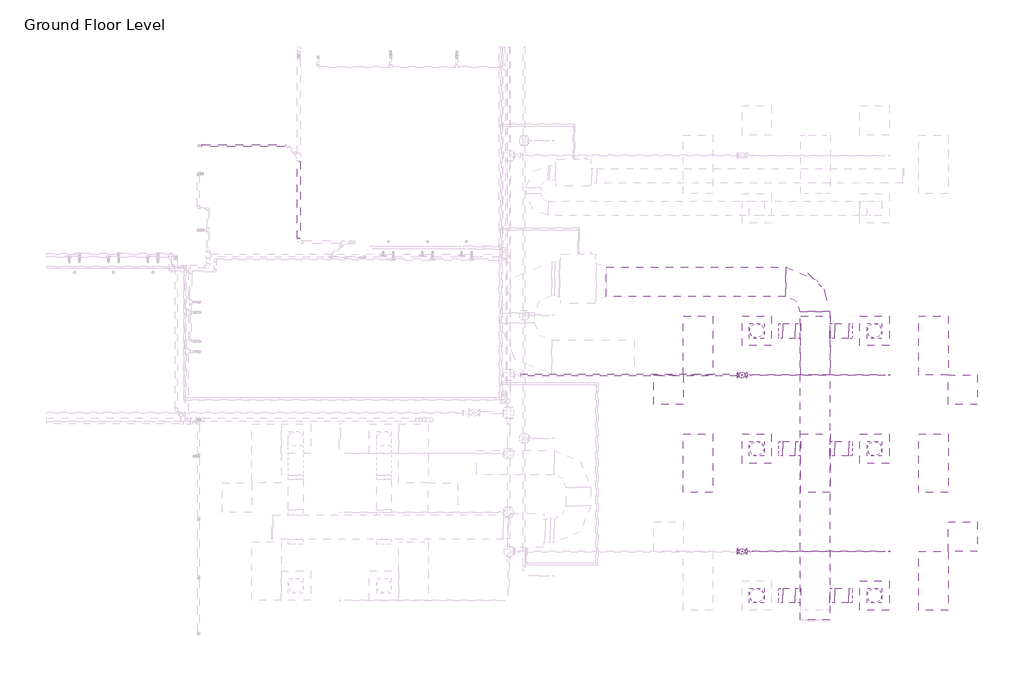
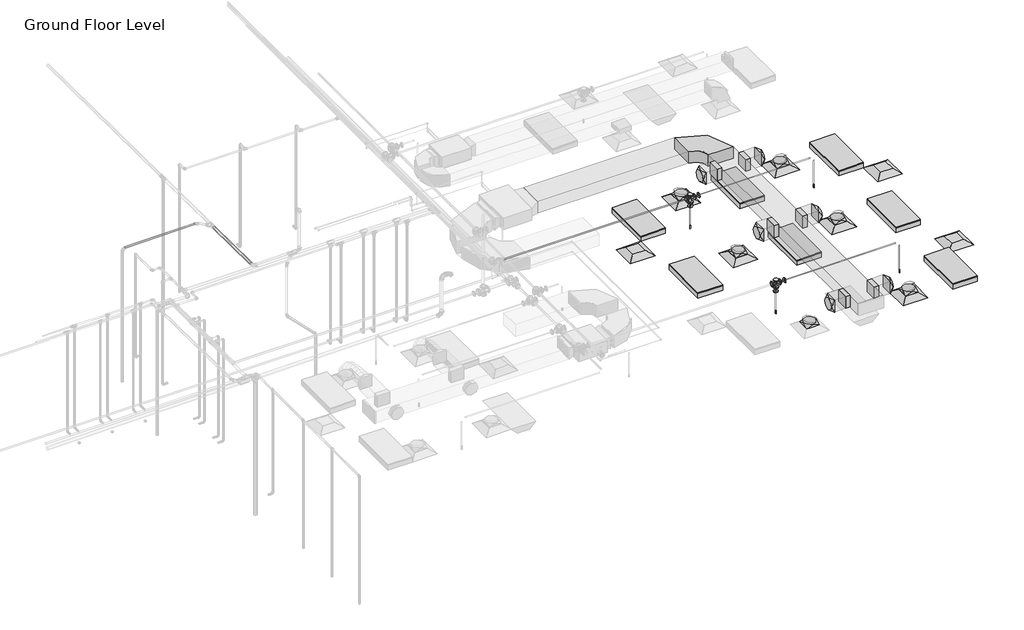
# One storey, part 18 of 66: 19 duct fittings, 14 duct segments, 9 pipe segments, 8 air terminals, 7 light fixtures, 6 pipe fittings, 4 fire suppression terminals.
"""IFC4 building model written with IfcOpenShell, lengths in millimetres."""

from ifc_helpers import new_model, si_unit, point, frame, frame_2d, origin, place, context, project, spatial, polyline, circle_curve, ellipse_curve, trimmed, segment, composite_curve, outline, extrude, transform, mapped, element, save
from ifc_brep_helpers import plane_surface, cylinder_surface, advanced_brep
from components import m_return_diffuser_600_x_600_face_300_x_300_connection_ff221211, m_rectangular_elbow_radius_1_w_c6ed0251, m_rectangular_takeoff_standard_cb0ccb98, m_rectangular_takeoff_standard_2be5eba1, m_rectangular_to_round_transition_angle_45_degree_641efff0, m_sprinkler_dry_pendent_hosted_15_mm_dry_pendent_9bda8e11, m_troffer_light_parabolic_rectangular1_0600x1200mm_4_lamp_86473d4a, m_reducer_flanged_cs_class_150_standard_ccf252ad, m_tee_round_base_flanged_cs_class_150_standard_7e5987a1

model = new_model("IFC4")

# Units and contexts
model_context = context("Model", 3, world=origin())
ifc_project = project(units=[si_unit("LENGTHUNIT", "METRE", prefix="MILLI")], contexts=[model_context])

# Site, building, storey
site = spatial("IfcSite", under=ifc_project)
building = spatial("IfcBuilding", under=site)
storey = spatial("IfcBuildingStorey", under=building, Name="Ground Floor Level", Elevation=900.0)

# Air terminals
placement = place(None, origin())
m_return_diffuser_600_x_600_face_300_x_300_connection_shape = m_return_diffuser_600_x_600_face_300_x_300_connection_ff221211(model_context)
element("IfcAirTerminal", 1, ObjectType="M_Return Diffuser : 600 x 600 Face 300 x 300 Connection", at=placement, inside=storey, context=model_context, shape_type="MappedRepresentation", body=[
    mapped(m_return_diffuser_600_x_600_face_300_x_300_connection_shape, transform((8943.0482736, -35564.7846466, 3650.0), x_axis=(1.0, 0.0, 0.0), y_axis=(0.0, 1.0, 0.0), z_axis=(0.0, 0.0, 1.0))),
])
element("IfcAirTerminal", 2, ObjectType="M_Return Diffuser : 600 x 600 Face 300 x 300 Connection", at=placement, inside=storey, context=model_context, shape_type="MappedRepresentation", body=[
    mapped(m_return_diffuser_600_x_600_face_300_x_300_connection_shape, transform((14943.0482736, -38564.7846466, 3650.0), x_axis=(1.0, 0.0, 0.0), y_axis=(0.0, 1.0, 0.0), z_axis=(0.0, 0.0, 1.0))),
])
element("IfcAirTerminal", 3, ObjectType="M_Return Diffuser : 600 x 600 Face 300 x 300 Connection", at=placement, inside=storey, context=model_context, shape_type="MappedRepresentation", body=[
    mapped(m_return_diffuser_600_x_600_face_300_x_300_connection_shape, transform((14943.0482736, -35564.7846466, 3650.0), x_axis=(1.0, 0.0, 0.0), y_axis=(0.0, 1.0, 0.0), z_axis=(0.0, 0.0, 1.0))),
])
element("IfcAirTerminal", 4, ObjectType="M_Supply Diffuser : 600 x 600 Face 300 x 300 Connection", at=placement, inside=storey, context=model_context, shape_type="MappedRepresentation", body=[
    mapped(m_return_diffuser_600_x_600_face_300_x_300_connection_shape, transform((13142.7672395, -39764.7846466, 3650.0), x_axis=(1.0, 0.0, 0.0), y_axis=(0.0, 1.0, 0.0), z_axis=(0.0, 0.0, 1.0))),
])
element("IfcAirTerminal", 5, ObjectType="M_Supply Diffuser : 600 x 600 Face 300 x 300 Connection", at=placement, inside=storey, context=model_context, shape_type="MappedRepresentation", body=[
    mapped(m_return_diffuser_600_x_600_face_300_x_300_connection_shape, transform((10742.7672395, -36764.7846466, 3650.0), x_axis=(1.0, 0.0, 0.0), y_axis=(0.0, 1.0, 0.0), z_axis=(0.0, 0.0, 1.0))),
])
element("IfcAirTerminal", 6, ObjectType="M_Supply Diffuser : 600 x 600 Face 300 x 300 Connection", at=placement, inside=storey, context=model_context, shape_type="MappedRepresentation", body=[
    mapped(m_return_diffuser_600_x_600_face_300_x_300_connection_shape, transform((13142.7672395, -36764.7846466, 3650.0), x_axis=(1.0, 0.0, 0.0), y_axis=(0.0, 1.0, 0.0), z_axis=(0.0, 0.0, 1.0))),
])
element("IfcAirTerminal", 7, ObjectType="M_Supply Diffuser : 600 x 600 Face 300 x 300 Connection", at=placement, inside=storey, context=model_context, shape_type="MappedRepresentation", body=[
    mapped(m_return_diffuser_600_x_600_face_300_x_300_connection_shape, transform((10742.7672395, -34364.7846466, 3650.0), x_axis=(1.0, 0.0, 0.0), y_axis=(0.0, 1.0, 0.0), z_axis=(0.0, 0.0, 1.0))),
])
element("IfcAirTerminal", 8, ObjectType="M_Supply Diffuser : 600 x 600 Face 300 x 300 Connection", at=placement, inside=storey, context=model_context, shape_type="MappedRepresentation", body=[
    mapped(m_return_diffuser_600_x_600_face_300_x_300_connection_shape, transform((13142.7672395, -34364.7846466, 3650.0), x_axis=(1.0, 0.0, 0.0), y_axis=(0.0, 1.0, 0.0), z_axis=(0.0, 0.0, 1.0))),
])

# Duct fittings
m_rectangular_elbow_radius_1_w_shape = m_rectangular_elbow_radius_1_w_c6ed0251(model_context)
element("IfcDuctFitting", 9, ObjectType="M_Rectangular Elbow - Radius : 1 W", at=placement, inside=storey, context=model_context, shape_type="MappedRepresentation", body=[
    mapped(m_rectangular_elbow_radius_1_w_shape, transform((11933.8644074, -33364.7726336, 4099.9875), x_axis=(0.0, 1.0, 0.0), y_axis=(-0.9999999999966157, 0.0, 2.601673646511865e-06), z_axis=(2.601673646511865e-06, 0.0, 0.9999999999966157))),
])
m_rectangular_takeoff_standard_shape = m_rectangular_takeoff_standard_cb0ccb98(model_context)
element("IfcDuctFitting", 10, ObjectType="M_Rectangular Takeoff : Standard", at=placement, inside=storey, context=model_context, shape_type="MappedRepresentation", body=[
    mapped(m_rectangular_takeoff_standard_shape, transform((12233.8644074, -34364.7846466, 4099.9875), x_axis=(1.0, 0.0, 0.0), y_axis=(0.0, -1.0, 0.0), z_axis=(0.0, 0.0, -1.0))),
])
element("IfcDuctFitting", 11, ObjectType="M_Rectangular Takeoff : Standard", at=placement, inside=storey, context=model_context, shape_type="MappedRepresentation", body=[
    mapped(m_rectangular_takeoff_standard_shape, transform((12233.8644074, -36764.7846466, 4099.9875), x_axis=(1.0, 0.0, 0.0), y_axis=(0.0, -1.0, 0.0), z_axis=(0.0, 0.0, -1.0))),
])
element("IfcDuctFitting", 12, ObjectType="M_Rectangular Takeoff : Standard", at=placement, inside=storey, context=model_context, shape_type="MappedRepresentation", body=[
    mapped(m_rectangular_takeoff_standard_shape, transform((12233.8644074, -39764.7846466, 4099.9875), x_axis=(1.0, 0.0, 0.0), y_axis=(0.0, -1.0, 0.0), z_axis=(0.0, 0.0, -1.0))),
])
m_rectangular_takeoff_standard_2_shape = m_rectangular_takeoff_standard_2be5eba1(model_context)
element("IfcDuctFitting", 13, ObjectType="M_Rectangular Takeoff : Standard", at=placement, inside=storey, context=model_context, shape_type="MappedRepresentation", body=[
    mapped(m_rectangular_takeoff_standard_2_shape, transform((11633.8644074, -34364.7846466, 4099.9875), x_axis=(-1.0, 0.0, 0.0), y_axis=(0.0, 1.0, 0.0), z_axis=(0.0, 0.0, -1.0))),
])
element("IfcDuctFitting", 14, ObjectType="M_Rectangular Takeoff : Standard", at=placement, inside=storey, context=model_context, shape_type="MappedRepresentation", body=[
    mapped(m_rectangular_takeoff_standard_2_shape, transform((11633.8644074, -36764.7846466, 4099.9875), x_axis=(-1.0, 0.0, 0.0), y_axis=(0.0, 1.0, 0.0), z_axis=(0.0, 0.0, -1.0))),
])
element("IfcDuctFitting", 15, ObjectType="M_Rectangular Takeoff : Standard", at=placement, inside=storey, context=model_context, shape_type="MappedRepresentation", body=[
    mapped(m_rectangular_takeoff_standard_2_shape, transform((11633.8644074, -39764.7846466, 4099.9875), x_axis=(-1.0, 0.0, 0.0), y_axis=(0.0, 1.0, 0.0), z_axis=(0.0, 0.0, -1.0))),
])
m_rectangular_to_round_transition_angle_45_degree_shape = m_rectangular_to_round_transition_angle_45_degree_641efff0(model_context)
element("IfcDuctFitting", 16, ObjectType="M_Rectangular to Round Transition - Angle : 45 Degree", at=placement, inside=storey, context=model_context, shape_type="MappedRepresentation", body=[
    mapped(m_rectangular_to_round_transition_angle_45_degree_shape, transform((10742.7672395, -34364.7846466, 3751.6), x_axis=(0.0, 0.0, 1.0), y_axis=(-1.0, 0.0, 0.0), z_axis=(0.0, -1.0, 0.0))),
])
element("IfcDuctFitting", 17, ObjectType="M_Rectangular to Round Transition - Angle : 45 Degree", at=placement, inside=storey, context=model_context, shape_type="MappedRepresentation", body=[
    mapped(m_rectangular_to_round_transition_angle_45_degree_shape, transform((11270.1156708, -34364.7846466, 4099.9875), x_axis=(-1.0, 0.0, 0.0), y_axis=(0.0, -1.0, 0.0), z_axis=(0.0, 0.0, 1.0))),
])
element("IfcDuctFitting", 18, ObjectType="M_Rectangular to Round Transition - Angle : 45 Degree", at=placement, inside=storey, context=model_context, shape_type="MappedRepresentation", body=[
    mapped(m_rectangular_to_round_transition_angle_45_degree_shape, transform((13142.7672395, -34364.7846466, 3751.6), x_axis=(0.0, 0.0, 1.0), y_axis=(-1.0, 0.0, 0.0), z_axis=(0.0, -1.0, 0.0))),
])
element("IfcDuctFitting", 19, ObjectType="M_Rectangular to Round Transition - Angle : 45 Degree", at=placement, inside=storey, context=model_context, shape_type="MappedRepresentation", body=[
    mapped(m_rectangular_to_round_transition_angle_45_degree_shape, transform((12615.4188082, -34364.7846466, 4099.9875), x_axis=(1.0, 0.0, 0.0), y_axis=(0.0, 1.0, 0.0), z_axis=(0.0, 0.0, 1.0))),
])
element("IfcDuctFitting", 20, ObjectType="M_Rectangular to Round Transition - Angle : 45 Degree", at=placement, inside=storey, context=model_context, shape_type="MappedRepresentation", body=[
    mapped(m_rectangular_to_round_transition_angle_45_degree_shape, transform((13142.7672395, -36764.7846466, 3751.6), x_axis=(0.0, 0.0, 1.0), y_axis=(-1.0, 0.0, 0.0), z_axis=(0.0, -1.0, 0.0))),
])
element("IfcDuctFitting", 21, ObjectType="M_Rectangular to Round Transition - Angle : 45 Degree", at=placement, inside=storey, context=model_context, shape_type="MappedRepresentation", body=[
    mapped(m_rectangular_to_round_transition_angle_45_degree_shape, transform((12615.4188082, -36764.7846466, 4099.9875), x_axis=(1.0, 0.0, 0.0), y_axis=(0.0, 1.0, 0.0), z_axis=(0.0, 0.0, 1.0))),
])
element("IfcDuctFitting", 22, ObjectType="M_Rectangular to Round Transition - Angle : 45 Degree", at=placement, inside=storey, context=model_context, shape_type="MappedRepresentation", body=[
    mapped(m_rectangular_to_round_transition_angle_45_degree_shape, transform((10742.7672395, -36764.7846466, 3751.6), x_axis=(0.0, 0.0, 1.0), y_axis=(-1.0, 0.0, 0.0), z_axis=(0.0, -1.0, 0.0))),
])
element("IfcDuctFitting", 23, ObjectType="M_Rectangular to Round Transition - Angle : 45 Degree", at=placement, inside=storey, context=model_context, shape_type="MappedRepresentation", body=[
    mapped(m_rectangular_to_round_transition_angle_45_degree_shape, transform((11270.1156708, -36764.7846466, 4099.9875), x_axis=(-1.0, 0.0, 0.0), y_axis=(0.0, -1.0, 0.0), z_axis=(0.0, 0.0, 1.0))),
])
element("IfcDuctFitting", 24, ObjectType="M_Rectangular to Round Transition - Angle : 45 Degree", at=placement, inside=storey, context=model_context, shape_type="MappedRepresentation", body=[
    mapped(m_rectangular_to_round_transition_angle_45_degree_shape, transform((10742.7672395, -39764.7846466, 3751.6), x_axis=(0.0, 0.0, 1.0), y_axis=(-1.0, 0.0, 0.0), z_axis=(0.0, -1.0, 0.0))),
])
element("IfcDuctFitting", 25, ObjectType="M_Rectangular to Round Transition - Angle : 45 Degree", at=placement, inside=storey, context=model_context, shape_type="MappedRepresentation", body=[
    mapped(m_rectangular_to_round_transition_angle_45_degree_shape, transform((11270.1156708, -39764.7846466, 4099.9875), x_axis=(-1.0, 0.0, 0.0), y_axis=(0.0, -1.0, 0.0), z_axis=(0.0, 0.0, 1.0))),
])
element("IfcDuctFitting", 26, ObjectType="M_Rectangular to Round Transition - Angle : 45 Degree", at=placement, inside=storey, context=model_context, shape_type="MappedRepresentation", body=[
    mapped(m_rectangular_to_round_transition_angle_45_degree_shape, transform((13142.7672395, -39764.7846466, 3751.6), x_axis=(0.0, 0.0, 1.0), y_axis=(-1.0, 0.0, 0.0), z_axis=(0.0, -1.0, 0.0))),
])
element("IfcDuctFitting", 27, ObjectType="M_Rectangular to Round Transition - Angle : 45 Degree", at=placement, inside=storey, context=model_context, shape_type="MappedRepresentation", body=[
    mapped(m_rectangular_to_round_transition_angle_45_degree_shape, transform((12615.4188082, -39764.7846466, 4099.9875), x_axis=(1.0, 0.0, 0.0), y_axis=(0.0, 1.0, 0.0), z_axis=(0.0, 0.0, 1.0))),
])

# Duct segments
element("IfcDuctSegment", 28, ObjectType="Flex - Round", at=placement, inside=storey, context=model_context, shape_type="AdvancedBrep", body=[
    advanced_brep(
    [(10892.7672395, -34364.7846466, 3826.6), (10742.7672395, -34514.7846466, 3826.6), (10592.7672395, -34364.7846466, 3826.6), (10742.7672395, -34214.7846466, 3826.6), (10892.7672395, -34364.7846466, 3829.8098344), (10742.7672395, -34214.7846466, 3864.5152119), (10592.7672395, -34364.7846466, 3899.2205895), (10742.7672395, -34514.7846466, 3864.5152119)],
    [
        (0, 1, circle_curve(frame((10742.7672395, -34364.7846466, 3826.6), z_axis=(0.0, 0.0, -1.0), x_axis=(1.0, 0.0, 0.0)), 150.0)),
        (1, 2, circle_curve(frame((10742.7672395, -34364.7846466, 3826.6), z_axis=(0.0, 0.0, -1.0), x_axis=(1.0, 0.0, 0.0)), 150.0)),
        (2, 3, circle_curve(frame((10742.7672395, -34364.7846466, 3826.6), z_axis=(0.0, 0.0, -1.0), x_axis=(1.0, 0.0, 0.0)), 150.0)),
        (3, 0, circle_curve(frame((10742.7672395, -34364.7846466, 3826.6), z_axis=(0.0, 0.0, -1.0), x_axis=(1.0, 0.0, 0.0)), 150.0)),
        (4, 5, ellipse_curve(frame((10742.7672395, -34364.7846466, 3864.5152119), z_axis=(0.22541442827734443, 0.0, 0.9742629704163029), x_axis=(0.9742629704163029, 0.0, -0.22541442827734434)), 153.9625384, 150.0)),
        (5, 6, ellipse_curve(frame((10742.7672395, -34364.7846466, 3864.5152119), z_axis=(0.22541442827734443, 0.0, 0.9742629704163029), x_axis=(0.9742629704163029, 0.0, -0.22541442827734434)), 153.9625384, 150.0)),
        (6, 7, ellipse_curve(frame((10742.7672395, -34364.7846466, 3864.5152119), z_axis=(0.22541442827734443, 0.0, 0.9742629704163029), x_axis=(0.9742629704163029, 0.0, -0.22541442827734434)), 153.9625384, 150.0)),
        (7, 4, ellipse_curve(frame((10742.7672395, -34364.7846466, 3864.5152119), z_axis=(0.22541442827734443, 0.0, 0.9742629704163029), x_axis=(0.9742629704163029, 0.0, -0.22541442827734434)), 153.9625384, 150.0)),
        (0, 4),
        (7, 1),
        (6, 2),
        (5, 3),
    ],
    [
        plane_surface(frame((10742.7672395, -34514.7846466, 3826.6), z_axis=(0.0, 0.0, -1.0), x_axis=(1.0, 0.0, 0.0))),
        plane_surface(frame((10742.7672395, -34514.7846466, 3864.5152119), z_axis=(0.22541442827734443, 0.0, 0.9742629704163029), x_axis=(0.9742629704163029, 0.0, -0.22541442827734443))),
        cylinder_surface(frame((10742.7672395, -34364.7846466, 3826.6), z_axis=(0.0, 0.0, -1.0), x_axis=(1.0, 0.0, 0.0)), 150.0),
    ],
    [
        (0, [[1, 2, 3, 4]]),
        (1, [[5, 6, 7, 8]]),
        (2, [[-1, 9, -8, 10]]),
        (2, [[-2, -10, -7, 11]]),
        (2, [[-3, -11, -6, 12]]),
        (2, [[-4, -12, -5, -9]]),
    ],
),
])
element("IfcDuctSegment", 29, ObjectType="Flex - Round", at=placement, inside=storey, context=model_context, shape_type="AdvancedBrep", body=[
    advanced_brep(
    [(13292.7672395, -34364.7846466, 3826.6), (13142.7672395, -34514.7846466, 3826.6), (12992.7672395, -34364.7846466, 3826.6), (13142.7672395, -34214.7846466, 3826.6), (13292.7672395, -34364.7846466, 3899.2205895), (13142.7672395, -34214.7846466, 3864.5152119), (12992.7672395, -34364.7846466, 3829.8098344), (13142.7672395, -34514.7846466, 3864.5152119)],
    [
        (0, 1, circle_curve(frame((13142.7672395, -34364.7846466, 3826.6), z_axis=(0.0, 0.0, -1.0), x_axis=(1.0, 0.0, 0.0)), 150.0)),
        (1, 2, circle_curve(frame((13142.7672395, -34364.7846466, 3826.6), z_axis=(0.0, 0.0, -1.0), x_axis=(1.0, 0.0, 0.0)), 150.0)),
        (2, 3, circle_curve(frame((13142.7672395, -34364.7846466, 3826.6), z_axis=(0.0, 0.0, -1.0), x_axis=(1.0, 0.0, 0.0)), 150.0)),
        (3, 0, circle_curve(frame((13142.7672395, -34364.7846466, 3826.6), z_axis=(0.0, 0.0, -1.0), x_axis=(1.0, 0.0, 0.0)), 150.0)),
        (4, 5, ellipse_curve(frame((13142.7672395, -34364.7846466, 3864.5152119), z_axis=(-0.22541442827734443, 0.0, 0.9742629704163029), x_axis=(-0.9742629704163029, 0.0, -0.22541442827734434)), 153.9625384, 150.0)),
        (5, 6, ellipse_curve(frame((13142.7672395, -34364.7846466, 3864.5152119), z_axis=(-0.22541442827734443, 0.0, 0.9742629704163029), x_axis=(-0.9742629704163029, 0.0, -0.22541442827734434)), 153.9625384, 150.0)),
        (6, 7, ellipse_curve(frame((13142.7672395, -34364.7846466, 3864.5152119), z_axis=(-0.22541442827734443, 0.0, 0.9742629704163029), x_axis=(-0.9742629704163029, 0.0, -0.22541442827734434)), 153.9625384, 150.0)),
        (7, 4, ellipse_curve(frame((13142.7672395, -34364.7846466, 3864.5152119), z_axis=(-0.22541442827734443, 0.0, 0.9742629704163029), x_axis=(-0.9742629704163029, 0.0, -0.22541442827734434)), 153.9625384, 150.0)),
        (0, 4),
        (7, 1),
        (6, 2),
        (5, 3),
    ],
    [
        plane_surface(frame((13142.7672395, -34514.7846466, 3826.6), z_axis=(0.0, 0.0, -1.0), x_axis=(1.0, 0.0, 0.0))),
        plane_surface(frame((13142.7672395, -34214.7846466, 3864.5152119), z_axis=(-0.22541442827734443, 0.0, 0.9742629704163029), x_axis=(-0.9742629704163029, 0.0, -0.22541442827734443))),
        cylinder_surface(frame((13142.7672395, -34364.7846466, 3826.6), z_axis=(0.0, 0.0, -1.0), x_axis=(1.0, 0.0, 0.0)), 150.0),
    ],
    [
        (0, [[1, 2, 3, 4]]),
        (1, [[5, 6, 7, 8]]),
        (2, [[-1, 9, -8, 10]]),
        (2, [[-2, -10, -7, 11]]),
        (2, [[-3, -11, -6, 12]]),
        (2, [[-4, -12, -5, -9]]),
    ],
),
])
element("IfcDuctSegment", 30, ObjectType="Flex - Round", at=placement, inside=storey, context=model_context, shape_type="AdvancedBrep", body=[
    advanced_brep(
    [(13292.7672395, -36764.7846466, 3826.6), (13142.7672395, -36914.7846466, 3826.6), (12992.7672395, -36764.7846466, 3826.6), (13142.7672395, -36614.7846466, 3826.6), (13292.7672395, -36764.7846466, 3899.2205895), (13142.7672395, -36614.7846466, 3864.5152119), (12992.7672395, -36764.7846466, 3829.8098344), (13142.7672395, -36914.7846466, 3864.5152119)],
    [
        (0, 1, circle_curve(frame((13142.7672395, -36764.7846466, 3826.6), z_axis=(0.0, 0.0, -1.0), x_axis=(1.0, 0.0, 0.0)), 150.0)),
        (1, 2, circle_curve(frame((13142.7672395, -36764.7846466, 3826.6), z_axis=(0.0, 0.0, -1.0), x_axis=(1.0, 0.0, 0.0)), 150.0)),
        (2, 3, circle_curve(frame((13142.7672395, -36764.7846466, 3826.6), z_axis=(0.0, 0.0, -1.0), x_axis=(1.0, 0.0, 0.0)), 150.0)),
        (3, 0, circle_curve(frame((13142.7672395, -36764.7846466, 3826.6), z_axis=(0.0, 0.0, -1.0), x_axis=(1.0, 0.0, 0.0)), 150.0)),
        (4, 5, ellipse_curve(frame((13142.7672395, -36764.7846466, 3864.5152119), z_axis=(-0.22541442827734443, 0.0, 0.9742629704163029), x_axis=(-0.9742629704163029, 0.0, -0.22541442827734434)), 153.9625384, 150.0)),
        (5, 6, ellipse_curve(frame((13142.7672395, -36764.7846466, 3864.5152119), z_axis=(-0.22541442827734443, 0.0, 0.9742629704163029), x_axis=(-0.9742629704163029, 0.0, -0.22541442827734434)), 153.9625384, 150.0)),
        (6, 7, ellipse_curve(frame((13142.7672395, -36764.7846466, 3864.5152119), z_axis=(-0.22541442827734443, 0.0, 0.9742629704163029), x_axis=(-0.9742629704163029, 0.0, -0.22541442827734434)), 153.9625384, 150.0)),
        (7, 4, ellipse_curve(frame((13142.7672395, -36764.7846466, 3864.5152119), z_axis=(-0.22541442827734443, 0.0, 0.9742629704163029), x_axis=(-0.9742629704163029, 0.0, -0.22541442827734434)), 153.9625384, 150.0)),
        (0, 4),
        (7, 1),
        (6, 2),
        (5, 3),
    ],
    [
        plane_surface(frame((13142.7672395, -36914.7846466, 3826.6), z_axis=(0.0, 0.0, -1.0), x_axis=(1.0, 0.0, 0.0))),
        plane_surface(frame((13142.7672395, -36614.7846466, 3864.5152119), z_axis=(-0.22541442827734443, 0.0, 0.9742629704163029), x_axis=(-0.9742629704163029, 0.0, -0.22541442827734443))),
        cylinder_surface(frame((13142.7672395, -36764.7846466, 3826.6), z_axis=(0.0, 0.0, -1.0), x_axis=(1.0, 0.0, 0.0)), 150.0),
    ],
    [
        (0, [[1, 2, 3, 4]]),
        (1, [[5, 6, 7, 8]]),
        (2, [[-1, 9, -8, 10]]),
        (2, [[-2, -10, -7, 11]]),
        (2, [[-3, -11, -6, 12]]),
        (2, [[-4, -12, -5, -9]]),
    ],
),
])
element("IfcDuctSegment", 31, ObjectType="Flex - Round", at=placement, inside=storey, context=model_context, shape_type="AdvancedBrep", body=[
    advanced_brep(
    [(10892.7672395, -36764.7846466, 3826.6), (10742.7672395, -36914.7846466, 3826.6), (10592.7672395, -36764.7846466, 3826.6), (10742.7672395, -36614.7846466, 3826.6), (10892.7672395, -36764.7846466, 3829.8098344), (10742.7672395, -36614.7846466, 3864.5152119), (10592.7672395, -36764.7846466, 3899.2205895), (10742.7672395, -36914.7846466, 3864.5152119)],
    [
        (0, 1, circle_curve(frame((10742.7672395, -36764.7846466, 3826.6), z_axis=(0.0, 0.0, -1.0), x_axis=(1.0, 0.0, 0.0)), 150.0)),
        (1, 2, circle_curve(frame((10742.7672395, -36764.7846466, 3826.6), z_axis=(0.0, 0.0, -1.0), x_axis=(1.0, 0.0, 0.0)), 150.0)),
        (2, 3, circle_curve(frame((10742.7672395, -36764.7846466, 3826.6), z_axis=(0.0, 0.0, -1.0), x_axis=(1.0, 0.0, 0.0)), 150.0)),
        (3, 0, circle_curve(frame((10742.7672395, -36764.7846466, 3826.6), z_axis=(0.0, 0.0, -1.0), x_axis=(1.0, 0.0, 0.0)), 150.0)),
        (4, 5, ellipse_curve(frame((10742.7672395, -36764.7846466, 3864.5152119), z_axis=(0.22541442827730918, 0.0, 0.9742629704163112), x_axis=(0.9742629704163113, 0.0, -0.2254144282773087)), 153.9625384, 150.0)),
        (5, 6, ellipse_curve(frame((10742.7672395, -36764.7846466, 3864.5152119), z_axis=(0.22541442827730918, 0.0, 0.9742629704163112), x_axis=(0.9742629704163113, 0.0, -0.2254144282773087)), 153.9625384, 150.0)),
        (6, 7, ellipse_curve(frame((10742.7672395, -36764.7846466, 3864.5152119), z_axis=(0.22541442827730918, 0.0, 0.9742629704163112), x_axis=(0.9742629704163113, 0.0, -0.2254144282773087)), 153.9625384, 150.0)),
        (7, 4, ellipse_curve(frame((10742.7672395, -36764.7846466, 3864.5152119), z_axis=(0.22541442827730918, 0.0, 0.9742629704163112), x_axis=(0.9742629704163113, 0.0, -0.2254144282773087)), 153.9625384, 150.0)),
        (0, 4),
        (7, 1),
        (6, 2),
        (5, 3),
    ],
    [
        plane_surface(frame((10742.7672395, -36914.7846466, 3826.6), z_axis=(0.0, 0.0, -1.0), x_axis=(1.0, 0.0, 0.0))),
        plane_surface(frame((10742.7672395, -36914.7846466, 3864.5152119), z_axis=(0.22541442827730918, 0.0, 0.9742629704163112), x_axis=(0.9742629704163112, 0.0, -0.22541442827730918))),
        cylinder_surface(frame((10742.7672395, -36764.7846466, 3826.6), z_axis=(0.0, 0.0, -1.0), x_axis=(1.0, 0.0, 0.0)), 150.0),
    ],
    [
        (0, [[1, 2, 3, 4]]),
        (1, [[5, 6, 7, 8]]),
        (2, [[-1, 9, -8, 10]]),
        (2, [[-2, -10, -7, 11]]),
        (2, [[-3, -11, -6, 12]]),
        (2, [[-4, -12, -5, -9]]),
    ],
),
])
element("IfcDuctSegment", 32, ObjectType="Flex - Round", at=placement, inside=storey, context=model_context, shape_type="AdvancedBrep", body=[
    advanced_brep(
    [(10892.7672395, -39764.7846466, 3826.6), (10742.7672395, -39914.7846466, 3826.6), (10592.7672395, -39764.7846466, 3826.6), (10742.7672395, -39614.7846466, 3826.6), (10892.7672395, -39764.7846466, 3829.8098344), (10742.7672395, -39614.7846466, 3864.5152119), (10592.7672395, -39764.7846466, 3899.2205895), (10742.7672395, -39914.7846466, 3864.5152119)],
    [
        (0, 1, circle_curve(frame((10742.7672395, -39764.7846466, 3826.6), z_axis=(0.0, 0.0, -1.0), x_axis=(1.0, 0.0, 0.0)), 150.0)),
        (1, 2, circle_curve(frame((10742.7672395, -39764.7846466, 3826.6), z_axis=(0.0, 0.0, -1.0), x_axis=(1.0, 0.0, 0.0)), 150.0)),
        (2, 3, circle_curve(frame((10742.7672395, -39764.7846466, 3826.6), z_axis=(0.0, 0.0, -1.0), x_axis=(1.0, 0.0, 0.0)), 150.0)),
        (3, 0, circle_curve(frame((10742.7672395, -39764.7846466, 3826.6), z_axis=(0.0, 0.0, -1.0), x_axis=(1.0, 0.0, 0.0)), 150.0)),
        (4, 5, ellipse_curve(frame((10742.7672395, -39764.7846466, 3864.5152119), z_axis=(0.22541442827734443, 0.0, 0.9742629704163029), x_axis=(0.9742629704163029, 0.0, -0.22541442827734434)), 153.9625384, 150.0)),
        (5, 6, ellipse_curve(frame((10742.7672395, -39764.7846466, 3864.5152119), z_axis=(0.22541442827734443, 0.0, 0.9742629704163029), x_axis=(0.9742629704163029, 0.0, -0.22541442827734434)), 153.9625384, 150.0)),
        (6, 7, ellipse_curve(frame((10742.7672395, -39764.7846466, 3864.5152119), z_axis=(0.22541442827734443, 0.0, 0.9742629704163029), x_axis=(0.9742629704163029, 0.0, -0.22541442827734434)), 153.9625384, 150.0)),
        (7, 4, ellipse_curve(frame((10742.7672395, -39764.7846466, 3864.5152119), z_axis=(0.22541442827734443, 0.0, 0.9742629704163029), x_axis=(0.9742629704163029, 0.0, -0.22541442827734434)), 153.9625384, 150.0)),
        (0, 4),
        (7, 1),
        (6, 2),
        (5, 3),
    ],
    [
        plane_surface(frame((10742.7672395, -39914.7846466, 3826.6), z_axis=(0.0, 0.0, -1.0), x_axis=(1.0, 0.0, 0.0))),
        plane_surface(frame((10742.7672395, -39914.7846466, 3864.5152119), z_axis=(0.22541442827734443, 0.0, 0.9742629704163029), x_axis=(0.9742629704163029, 0.0, -0.22541442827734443))),
        cylinder_surface(frame((10742.7672395, -39764.7846466, 3826.6), z_axis=(0.0, 0.0, -1.0), x_axis=(1.0, 0.0, 0.0)), 150.0),
    ],
    [
        (0, [[1, 2, 3, 4]]),
        (1, [[5, 6, 7, 8]]),
        (2, [[-1, 9, -8, 10]]),
        (2, [[-2, -10, -7, 11]]),
        (2, [[-3, -11, -6, 12]]),
        (2, [[-4, -12, -5, -9]]),
    ],
),
])
element("IfcDuctSegment", 33, ObjectType="Flex - Round", at=placement, inside=storey, context=model_context, shape_type="AdvancedBrep", body=[
    advanced_brep(
    [(13292.7672395, -39764.7846466, 3826.6), (13142.7672395, -39914.7846466, 3826.6), (12992.7672395, -39764.7846466, 3826.6), (13142.7672395, -39614.7846466, 3826.6), (13292.7672395, -39764.7846466, 3899.2205895), (13142.7672395, -39614.7846466, 3864.5152119), (12992.7672395, -39764.7846466, 3829.8098344), (13142.7672395, -39914.7846466, 3864.5152119)],
    [
        (0, 1, circle_curve(frame((13142.7672395, -39764.7846466, 3826.6), z_axis=(0.0, 0.0, -1.0), x_axis=(1.0, 0.0, 0.0)), 150.0)),
        (1, 2, circle_curve(frame((13142.7672395, -39764.7846466, 3826.6), z_axis=(0.0, 0.0, -1.0), x_axis=(1.0, 0.0, 0.0)), 150.0)),
        (2, 3, circle_curve(frame((13142.7672395, -39764.7846466, 3826.6), z_axis=(0.0, 0.0, -1.0), x_axis=(1.0, 0.0, 0.0)), 150.0)),
        (3, 0, circle_curve(frame((13142.7672395, -39764.7846466, 3826.6), z_axis=(0.0, 0.0, -1.0), x_axis=(1.0, 0.0, 0.0)), 150.0)),
        (4, 5, ellipse_curve(frame((13142.7672395, -39764.7846466, 3864.5152119), z_axis=(-0.22541442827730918, 0.0, 0.9742629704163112), x_axis=(-0.9742629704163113, 0.0, -0.2254144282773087)), 153.9625384, 150.0)),
        (5, 6, ellipse_curve(frame((13142.7672395, -39764.7846466, 3864.5152119), z_axis=(-0.22541442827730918, 0.0, 0.9742629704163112), x_axis=(-0.9742629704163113, 0.0, -0.2254144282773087)), 153.9625384, 150.0)),
        (6, 7, ellipse_curve(frame((13142.7672395, -39764.7846466, 3864.5152119), z_axis=(-0.22541442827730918, 0.0, 0.9742629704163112), x_axis=(-0.9742629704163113, 0.0, -0.2254144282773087)), 153.9625384, 150.0)),
        (7, 4, ellipse_curve(frame((13142.7672395, -39764.7846466, 3864.5152119), z_axis=(-0.22541442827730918, 0.0, 0.9742629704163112), x_axis=(-0.9742629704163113, 0.0, -0.2254144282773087)), 153.9625384, 150.0)),
        (0, 4),
        (7, 1),
        (6, 2),
        (5, 3),
    ],
    [
        plane_surface(frame((13142.7672395, -39914.7846466, 3826.6), z_axis=(0.0, 0.0, -1.0), x_axis=(1.0, 0.0, 0.0))),
        plane_surface(frame((13142.7672395, -39614.7846466, 3864.5152119), z_axis=(-0.22541442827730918, 0.0, 0.9742629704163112), x_axis=(-0.9742629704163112, 0.0, -0.22541442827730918))),
        cylinder_surface(frame((13142.7672395, -39764.7846466, 3826.6), z_axis=(0.0, 0.0, -1.0), x_axis=(1.0, 0.0, 0.0)), 150.0),
    ],
    [
        (0, [[1, 2, 3, 4]]),
        (1, [[5, 6, 7, 8]]),
        (2, [[-1, 9, -8, 10]]),
        (2, [[-2, -10, -7, 11]]),
        (2, [[-3, -11, -6, 12]]),
        (2, [[-4, -12, -5, -9]]),
    ],
),
])
element("IfcDuctSegment", 34, ObjectType="Radius Elbows / Taps", at=placement, inside=storey, context=model_context, shape_type="SweptSolid", body=[
    extrude(outline(polyline([(0.0, -600.0), (0.0, 0.0), (3664.5995898, 0.0), (3664.5995898, -600.0), (0.0, -600.0)])), frame((7669.2643699, -33064.7726336, 3950.0), z_axis=(2.9850453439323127e-06, 0.0, 0.9999999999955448), x_axis=(0.9999999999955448, 0.0, -2.9850453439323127e-06)), (0.0, 0.0, 1.0), 300.0),
])
element("IfcDuctSegment", 35, ObjectType="Radius Elbows / Taps", at=placement, inside=storey, context=model_context, shape_type="SweptSolid", body=[
    extrude(outline(polyline([(11633.8644074, -33964.7726336), (12233.8644074, -33964.7726336), (12233.8644074, -40264.7726336), (11633.8644074, -40264.7726336), (11633.8644074, -33964.7726336)])), frame((0.0, 0.0, 3949.9875), z_axis=(0.0, 0.0, 1.0), x_axis=(1.0, 0.0, 0.0)), (0.0, 0.0, 1.0), 300.0),
])
element("IfcDuctSegment", 36, ObjectType="Radius Elbows / Taps", at=placement, inside=storey, context=model_context, shape_type="SweptSolid", body=[
    extrude(outline(polyline([(11532.2644074, -34214.7846466), (11532.2644074, -34514.7846466), (11270.1156708, -34514.7846466), (11270.1156708, -34214.7846466), (11532.2644074, -34214.7846466)])), frame((0.0, 0.0, 3949.9875), z_axis=(0.0, 0.0, 1.0), x_axis=(1.0, 0.0, 0.0)), (0.0, 0.0, 1.0), 300.0),
])
element("IfcDuctSegment", 37, ObjectType="Radius Elbows / Taps", at=placement, inside=storey, context=model_context, shape_type="SweptSolid", body=[
    extrude(outline(polyline([(12335.4644074, -34514.7846466), (12335.4644074, -34214.7846466), (12615.4188082, -34214.7846466), (12615.4188082, -34514.7846466), (12335.4644074, -34514.7846466)])), frame((0.0, 0.0, 3949.9875), z_axis=(0.0, 0.0, 1.0), x_axis=(1.0, 0.0, 0.0)), (0.0, 0.0, 1.0), 300.0),
])
element("IfcDuctSegment", 38, ObjectType="Radius Elbows / Taps", at=placement, inside=storey, context=model_context, shape_type="SweptSolid", body=[
    extrude(outline(polyline([(12335.4644074, -36914.7846466), (12335.4644074, -36614.7846466), (12615.4188082, -36614.7846466), (12615.4188082, -36914.7846466), (12335.4644074, -36914.7846466)])), frame((0.0, 0.0, 3949.9875), z_axis=(0.0, 0.0, 1.0), x_axis=(1.0, 0.0, 0.0)), (0.0, 0.0, 1.0), 300.0),
])
element("IfcDuctSegment", 39, ObjectType="Radius Elbows / Taps", at=placement, inside=storey, context=model_context, shape_type="SweptSolid", body=[
    extrude(outline(polyline([(11532.2644074, -36614.7846466), (11532.2644074, -36914.7846466), (11270.1156708, -36914.7846466), (11270.1156708, -36614.7846466), (11532.2644074, -36614.7846466)])), frame((0.0, 0.0, 3949.9875), z_axis=(0.0, 0.0, 1.0), x_axis=(1.0, 0.0, 0.0)), (0.0, 0.0, 1.0), 300.0),
])
element("IfcDuctSegment", 40, ObjectType="Radius Elbows / Taps", at=placement, inside=storey, context=model_context, shape_type="SweptSolid", body=[
    extrude(outline(polyline([(11532.2644074, -39614.7846466), (11532.2644074, -39914.7846466), (11270.1156708, -39914.7846466), (11270.1156708, -39614.7846466), (11532.2644074, -39614.7846466)])), frame((0.0, 0.0, 3949.9875), z_axis=(0.0, 0.0, 1.0), x_axis=(1.0, 0.0, 0.0)), (0.0, 0.0, 1.0), 300.0),
])
element("IfcDuctSegment", 41, ObjectType="Radius Elbows / Taps", at=placement, inside=storey, context=model_context, shape_type="SweptSolid", body=[
    extrude(outline(polyline([(12335.4644074, -39914.7846466), (12335.4644074, -39614.7846466), (12615.4188082, -39614.7846466), (12615.4188082, -39914.7846466), (12335.4644074, -39914.7846466)])), frame((0.0, 0.0, 3949.9875), z_axis=(0.0, 0.0, 1.0), x_axis=(1.0, 0.0, 0.0)), (0.0, 0.0, 1.0), 300.0),
])

# Fire suppression terminals
m_sprinkler_dry_pendent_hosted_15_mm_dry_pendent_shape = m_sprinkler_dry_pendent_hosted_15_mm_dry_pendent_9bda8e11(model_context)
element("IfcFireSuppressionTerminal", 42, ObjectType="M_Sprinkler - Dry - Pendent - Hosted : 15 mm Dry Pendent", at=placement, inside=storey, context=model_context, shape_type="MappedRepresentation", body=[
    mapped(m_sprinkler_dry_pendent_hosted_15_mm_dry_pendent_shape, transform((10443.0482736, -35264.7846466, 3650.0), x_axis=(1.0, 0.0, 0.0), y_axis=(0.0, -1.0, 0.0), z_axis=(0.0, 0.0, -1.0))),
])
element("IfcFireSuppressionTerminal", 43, ObjectType="M_Sprinkler - Dry - Pendent - Hosted : 15 mm Dry Pendent", at=placement, inside=storey, context=model_context, shape_type="MappedRepresentation", body=[
    mapped(m_sprinkler_dry_pendent_hosted_15_mm_dry_pendent_shape, transform((10443.0482736, -38864.7846466, 3650.0), x_axis=(1.0, 0.0, 0.0), y_axis=(0.0, -1.0, 0.0), z_axis=(0.0, 0.0, -1.0))),
])
element("IfcFireSuppressionTerminal", 44, ObjectType="M_Sprinkler - Dry - Pendent - Hosted : 15 mm Dry Pendent", at=placement, inside=storey, context=model_context, shape_type="MappedRepresentation", body=[
    mapped(m_sprinkler_dry_pendent_hosted_15_mm_dry_pendent_shape, transform((13443.0482736, -38864.7846466, 3650.0), x_axis=(1.0, 0.0, 0.0), y_axis=(0.0, -1.0, 0.0), z_axis=(0.0, 0.0, -1.0))),
])
element("IfcFireSuppressionTerminal", 45, ObjectType="M_Sprinkler - Dry - Pendent - Hosted : 15 mm Dry Pendent", at=placement, inside=storey, context=model_context, shape_type="MappedRepresentation", body=[
    mapped(m_sprinkler_dry_pendent_hosted_15_mm_dry_pendent_shape, transform((13443.0482736, -35264.7846466, 3650.0), x_axis=(1.0, 0.0, 0.0), y_axis=(0.0, -1.0, 0.0), z_axis=(0.0, 0.0, -1.0))),
])

# Light fixtures
m_troffer_light_parabolic_rectangular1_0600x1200mm_4_lamp_shape = m_troffer_light_parabolic_rectangular1_0600x1200mm_4_lamp_86473d4a(model_context)
element("IfcLightFixture", 46, ObjectType="M_Troffer Light - Parabolic Rectangular1 : 0600x1200mm(4 Lamp) - 277V 2", at=placement, inside=storey, context=model_context, shape_type="MappedRepresentation", body=[
    mapped(m_troffer_light_parabolic_rectangular1_0600x1200mm_4_lamp_shape, transform((9483.5823415, -34646.0811451, 3650.0), x_axis=(0.0, 1.0, 0.0), y_axis=(-1.0, 0.0, 0.0), z_axis=(0.0, 0.0, 1.0))),
])
element("IfcLightFixture", 47, ObjectType="M_Troffer Light - Parabolic Rectangular1 : 0600x1200mm(4 Lamp) - 277V 2", at=placement, inside=storey, context=model_context, shape_type="MappedRepresentation", body=[
    mapped(m_troffer_light_parabolic_rectangular1_0600x1200mm_4_lamp_shape, transform((14283.5823415, -34646.0811451, 3650.0), x_axis=(0.0, 1.0, 0.0), y_axis=(-1.0, 0.0, 0.0), z_axis=(0.0, 0.0, 1.0))),
])
element("IfcLightFixture", 48, ObjectType="M_Troffer Light - Parabolic Rectangular1 : 0600x1200mm(4 Lamp) - 277V 2", at=placement, inside=storey, context=model_context, shape_type="MappedRepresentation", body=[
    mapped(m_troffer_light_parabolic_rectangular1_0600x1200mm_4_lamp_shape, transform((9483.5823415, -37046.0811451, 3650.0), x_axis=(0.0, 1.0, 0.0), y_axis=(-1.0, 0.0, 0.0), z_axis=(0.0, 0.0, 1.0))),
])
element("IfcLightFixture", 49, ObjectType="M_Troffer Light - Parabolic Rectangular1 : 0600x1200mm(4 Lamp) - 277V 2", at=placement, inside=storey, context=model_context, shape_type="MappedRepresentation", body=[
    mapped(m_troffer_light_parabolic_rectangular1_0600x1200mm_4_lamp_shape, transform((14283.5823415, -37046.0811451, 3650.0), x_axis=(0.0, 1.0, 0.0), y_axis=(-1.0, 0.0, 0.0), z_axis=(0.0, 0.0, 1.0))),
])
element("IfcLightFixture", 50, ObjectType="M_Troffer Light - Parabolic Rectangular1 : 0600x1200mm(4 Lamp) - 277V 2", at=placement, inside=storey, context=model_context, shape_type="MappedRepresentation", body=[
    mapped(m_troffer_light_parabolic_rectangular1_0600x1200mm_4_lamp_shape, transform((14283.5823415, -39446.0811451, 3650.0), x_axis=(0.0, 1.0, 0.0), y_axis=(-1.0, 0.0, 0.0), z_axis=(0.0, 0.0, 1.0))),
])
element("IfcLightFixture", 51, ObjectType="M_Troffer Light - Parabolic Rectangular1 : 0600x1200mm(4 Lamp) - 277V 2", at=placement, inside=storey, context=model_context, shape_type="MappedRepresentation", body=[
    mapped(m_troffer_light_parabolic_rectangular1_0600x1200mm_4_lamp_shape, transform((11883.5823415, -37046.0811451, 3650.0), x_axis=(0.0, 1.0, 0.0), y_axis=(-1.0, 0.0, 0.0), z_axis=(0.0, 0.0, 1.0))),
])
element("IfcLightFixture", 52, ObjectType="M_Troffer Light - Parabolic Rectangular1 : 0600x1200mm(4 Lamp) - 277V 2", at=placement, inside=storey, context=model_context, shape_type="MappedRepresentation", body=[
    mapped(m_troffer_light_parabolic_rectangular1_0600x1200mm_4_lamp_shape, transform((11883.5823415, -34646.0811451, 3650.0), x_axis=(0.0, 1.0, 0.0), y_axis=(-1.0, 0.0, 0.0), z_axis=(0.0, 0.0, 1.0))),
])

# Pipe fittings
m_reducer_flanged_cs_class_150_standard_shape = m_reducer_flanged_cs_class_150_standard_ccf252ad(model_context)
element("IfcPipeFitting", 53, ObjectType="M_Reducer - Flanged - CS - Class 150 : Standard", at=placement, inside=storey, context=model_context, shape_type="MappedRepresentation", body=[
    mapped(m_reducer_flanged_cs_class_150_standard_shape, transform((10543.7568674, -38864.7846466, 4347.5), x_axis=(1.0, 0.0, 0.0), y_axis=(0.0, 0.0, 1.0), z_axis=(0.0, -1.0, 0.0))),
])
element("IfcPipeFitting", 54, ObjectType="M_Reducer - Flanged - CS - Class 150 : Standard", at=placement, inside=storey, context=model_context, shape_type="MappedRepresentation", body=[
    mapped(m_reducer_flanged_cs_class_150_standard_shape, transform((10443.0482736, -38864.7846466, 4246.7914062), x_axis=(0.0, 0.0, -1.0), y_axis=(-1.0, 0.0, 0.0), z_axis=(0.0, 1.0, 0.0))),
])
element("IfcPipeFitting", 55, ObjectType="M_Reducer - Flanged - CS - Class 150 : Standard", at=placement, inside=storey, context=model_context, shape_type="MappedRepresentation", body=[
    mapped(m_reducer_flanged_cs_class_150_standard_shape, transform((10543.7568674, -35264.7846466, 4347.5), x_axis=(1.0, 0.0, 0.0), y_axis=(0.0, 0.0, 1.0), z_axis=(0.0, -1.0, 0.0))),
])
element("IfcPipeFitting", 56, ObjectType="M_Reducer - Flanged - CS - Class 150 : Standard", at=placement, inside=storey, context=model_context, shape_type="MappedRepresentation", body=[
    mapped(m_reducer_flanged_cs_class_150_standard_shape, transform((10443.0482736, -35264.7846466, 4246.7914063), x_axis=(0.0, 0.0, -1.0), y_axis=(-1.0, 0.0, 0.0), z_axis=(0.0, 1.0, 0.0))),
])
m_tee_round_base_flanged_cs_class_150_standard_shape = m_tee_round_base_flanged_cs_class_150_standard_7e5987a1(model_context)
element("IfcPipeFitting", 57, ObjectType="M_Tee Round Base - Flanged - CS - Class 150 : Standard", at=placement, inside=storey, context=model_context, shape_type="MappedRepresentation", body=[
    mapped(m_tee_round_base_flanged_cs_class_150_standard_shape, transform((10443.0482736, -38864.7846466, 4347.5), x_axis=(1.0, 0.0, 0.0), y_axis=(0.0, 0.0, 1.0), z_axis=(0.0, -1.0, 0.0))),
])
element("IfcPipeFitting", 58, ObjectType="M_Tee Round Base - Flanged - CS - Class 150 : Standard", at=placement, inside=storey, context=model_context, shape_type="MappedRepresentation", body=[
    mapped(m_tee_round_base_flanged_cs_class_150_standard_shape, transform((10443.0482736, -35264.7846466, 4347.5), x_axis=(1.0, 0.0, 0.0), y_axis=(0.0, 0.0, 1.0), z_axis=(0.0, -1.0, 0.0))),
])

# Pipe segments
element("IfcPipeSegment", 59, ObjectType="PVC - DWV", at=placement, inside=storey, context=model_context, shape_type="SweptSolid", body=[
    extrude(outline(composite_curve([segment(trimmed(circle_curve(frame_2d((0.0, 30.1624999)), 30.1625), [point((-30.1625, 30.1624999))], [point((0.0, 60.3249999))], False, "CARTESIAN"), True, "CONTINUOUS"), segment(trimmed(circle_curve(frame_2d((0.0, 30.1624999)), 30.1625), [point((0.0, 60.3249999))], [point((30.1625, 30.1624999))], False, "CARTESIAN"), True, "CONTINUOUS"), segment(trimmed(circle_curve(frame_2d((0.0, 30.1624999)), 30.1625), [point((30.1625, 30.1624999))], [point((0.0, 0.0))], False, "CARTESIAN"), True, "CONTINUOUS"), segment(trimmed(circle_curve(frame_2d((0.0, 30.1624999)), 30.1625), [point((0.0, 0.0))], [point((-30.1625, 30.1624999))], False, "CARTESIAN"), True, "CONTINUOUS")], self_intersect=False)), frame((1404.8829692, -30903.6076742, 4078.5308608), z_axis=(0.0, -0.9999500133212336, 0.009998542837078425), x_axis=(1.0, 0.0, 0.0)), (0.0, 0.0, 1.0), 1573.2710833),
])
element("IfcPipeSegment", 60, ObjectType="PVC - DWV", at=placement, inside=storey, context=model_context, shape_type="SweptSolid", body=[
    extrude(outline(composite_curve([segment(trimmed(circle_curve(frame_2d((0.0, 21.082)), 21.082), [point((0.0, 0.0))], [point((-21.082, 21.082))], False, "CARTESIAN"), True, "CONTINUOUS"), segment(trimmed(circle_curve(frame_2d((0.0, 21.082)), 21.082), [point((-21.082, 21.082))], [point((0.0, 42.164))], False, "CARTESIAN"), True, "CONTINUOUS"), segment(trimmed(circle_curve(frame_2d((0.0, 21.082)), 21.082), [point((0.0, 42.164))], [point((21.082, 21.082))], False, "CARTESIAN"), True, "CONTINUOUS"), segment(trimmed(circle_curve(frame_2d((0.0, 21.082)), 21.082), [point((21.082, 21.082))], [point((0.0, 0.0))], False, "CARTESIAN"), True, "CONTINUOUS")], self_intersect=False)), frame((-576.3892193, -30602.8361446, 4084.6172136), z_axis=(0.9999501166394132, 0.0, 0.009988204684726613), x_axis=(0.009988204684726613, 0.0, -0.9999501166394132)), (0.0, 0.0, 1.0), 1701.261054),
])
element("IfcPipeSegment", 61, ObjectType="Steel flanged", at=placement, inside=storey, context=model_context, shape_type="SweptSolid", body=[
    extrude(outline(composite_curve([segment(trimmed(circle_curve(frame_2d((13443.0482736, -38864.7846466)), 10.668), [point((13432.3802736, -38864.7846466))], [point((13443.0482736, -38854.1166466))], False, "CARTESIAN"), True, "CONTINUOUS"), segment(trimmed(circle_curve(frame_2d((13443.0482736, -38864.7846466)), 10.668), [point((13443.0482736, -38854.1166466))], [point((13453.7162736, -38864.7846466))], False, "CARTESIAN"), True, "CONTINUOUS"), segment(trimmed(circle_curve(frame_2d((13443.0482736, -38864.7846466)), 10.668), [point((13453.7162736, -38864.7846466))], [point((13443.0482736, -38875.4526466))], False, "CARTESIAN"), True, "CONTINUOUS"), segment(trimmed(circle_curve(frame_2d((13443.0482736, -38864.7846466)), 10.668), [point((13443.0482736, -38875.4526466))], [point((13432.3802736, -38864.7846466))], False, "CARTESIAN"), True, "CONTINUOUS")], self_intersect=False)), frame((0.0, 0.0, 3650.0), z_axis=(0.0, 0.0, 1.0), x_axis=(1.0, 0.0, 0.0)), (0.0, 0.0, 1.0), 604.4914062),
])
element("IfcPipeSegment", 62, ObjectType="Steel flanged", at=placement, inside=storey, context=model_context, shape_type="SweptSolid", body=[
    extrude(outline(composite_curve([segment(trimmed(circle_curve(frame_2d((13443.0482736, -35264.7846466)), 10.668), [point((13432.3802736, -35264.7846466))], [point((13443.0482736, -35254.1166466))], False, "CARTESIAN"), True, "CONTINUOUS"), segment(trimmed(circle_curve(frame_2d((13443.0482736, -35264.7846466)), 10.668), [point((13443.0482736, -35254.1166466))], [point((13453.7162736, -35264.7846466))], False, "CARTESIAN"), True, "CONTINUOUS"), segment(trimmed(circle_curve(frame_2d((13443.0482736, -35264.7846466)), 10.668), [point((13453.7162736, -35264.7846466))], [point((13443.0482736, -35275.4526466))], False, "CARTESIAN"), True, "CONTINUOUS"), segment(trimmed(circle_curve(frame_2d((13443.0482736, -35264.7846466)), 10.668), [point((13443.0482736, -35275.4526466))], [point((13432.3802736, -35264.7846466))], False, "CARTESIAN"), True, "CONTINUOUS")], self_intersect=False)), frame((0.0, 0.0, 3650.0), z_axis=(0.0, 0.0, 1.0), x_axis=(1.0, 0.0, 0.0)), (0.0, 0.0, 1.0), 604.4914062),
])
element("IfcPipeSegment", 63, ObjectType="Steel flanged", at=placement, inside=storey, context=model_context, shape_type="SweptSolid", body=[
    extrude(outline(composite_curve([segment(trimmed(circle_curve(frame_2d((10443.0482736, -38864.7846466)), 10.668), [point((10432.3802736, -38864.7846466))], [point((10443.0482736, -38854.1166466))], False, "CARTESIAN"), True, "CONTINUOUS"), segment(trimmed(circle_curve(frame_2d((10443.0482736, -38864.7846466)), 10.668), [point((10443.0482736, -38854.1166466))], [point((10453.7162736, -38864.7846466))], False, "CARTESIAN"), True, "CONTINUOUS"), segment(trimmed(circle_curve(frame_2d((10443.0482736, -38864.7846466)), 10.668), [point((10453.7162736, -38864.7846466))], [point((10443.0482736, -38875.4526466))], False, "CARTESIAN"), True, "CONTINUOUS"), segment(trimmed(circle_curve(frame_2d((10443.0482736, -38864.7846466)), 10.668), [point((10443.0482736, -38875.4526466))], [point((10432.3802736, -38864.7846466))], False, "CARTESIAN"), True, "CONTINUOUS")], self_intersect=False)), frame((0.0, 0.0, 3650.0), z_axis=(0.0, 0.0, 1.0), x_axis=(1.0, 0.0, 0.0)), (0.0, 0.0, 1.0), 482.7914062),
])
element("IfcPipeSegment", 64, ObjectType="Steel flanged", at=placement, inside=storey, context=model_context, shape_type="SweptSolid", body=[
    extrude(outline(composite_curve([segment(trimmed(circle_curve(frame_2d((-38864.7846466, 4347.5)), 10.668), [point((-38854.1166466, 4347.5))], [point((-38864.7846466, 4336.832))], False, "CARTESIAN"), True, "CONTINUOUS"), segment(trimmed(circle_curve(frame_2d((-38864.7846466, 4347.5)), 10.668), [point((-38864.7846466, 4336.832))], [point((-38875.4526466, 4347.5))], False, "CARTESIAN"), True, "CONTINUOUS"), segment(trimmed(circle_curve(frame_2d((-38864.7846466, 4347.5)), 10.668), [point((-38875.4526466, 4347.5))], [point((-38864.7846466, 4358.168))], False, "CARTESIAN"), True, "CONTINUOUS"), segment(trimmed(circle_curve(frame_2d((-38864.7846466, 4347.5)), 10.668), [point((-38864.7846466, 4358.168))], [point((-38854.1166466, 4347.5))], False, "CARTESIAN"), True, "CONTINUOUS")], self_intersect=False)), frame((10657.7568674, 0.0, 0.0), z_axis=(1.0, 0.0, 0.0), x_axis=(0.0, 1.0, 0.0)), (0.0, 0.0, 1.0), 2692.2828125),
])
element("IfcPipeSegment", 65, ObjectType="Steel flanged", at=placement, inside=storey, context=model_context, shape_type="SweptSolid", body=[
    extrude(outline(composite_curve([segment(trimmed(circle_curve(frame_2d((10443.0482736, -35264.7846466)), 10.668), [point((10432.3802736, -35264.7846466))], [point((10443.0482736, -35254.1166466))], False, "CARTESIAN"), True, "CONTINUOUS"), segment(trimmed(circle_curve(frame_2d((10443.0482736, -35264.7846466)), 10.668), [point((10443.0482736, -35254.1166466))], [point((10453.7162736, -35264.7846466))], False, "CARTESIAN"), True, "CONTINUOUS"), segment(trimmed(circle_curve(frame_2d((10443.0482736, -35264.7846466)), 10.668), [point((10453.7162736, -35264.7846466))], [point((10443.0482736, -35275.4526466))], False, "CARTESIAN"), True, "CONTINUOUS"), segment(trimmed(circle_curve(frame_2d((10443.0482736, -35264.7846466)), 10.668), [point((10443.0482736, -35275.4526466))], [point((10432.3802736, -35264.7846466))], False, "CARTESIAN"), True, "CONTINUOUS")], self_intersect=False)), frame((0.0, 0.0, 3650.0), z_axis=(0.0, 0.0, 1.0), x_axis=(1.0, 0.0, 0.0)), (0.0, 0.0, 1.0), 482.7914062),
])
element("IfcPipeSegment", 66, ObjectType="Steel flanged", at=placement, inside=storey, context=model_context, shape_type="SweptSolid", body=[
    extrude(outline(composite_curve([segment(trimmed(circle_curve(frame_2d((-35264.7846466, 4347.5)), 16.7005), [point((-35248.0841466, 4347.5))], [point((-35264.7846466, 4330.7995))], False, "CARTESIAN"), True, "CONTINUOUS"), segment(trimmed(circle_curve(frame_2d((-35264.7846466, 4347.5)), 16.7005), [point((-35264.7846466, 4330.7995))], [point((-35281.4851466, 4347.5))], False, "CARTESIAN"), True, "CONTINUOUS"), segment(trimmed(circle_curve(frame_2d((-35264.7846466, 4347.5)), 16.7005), [point((-35281.4851466, 4347.5))], [point((-35264.7846466, 4364.2005))], False, "CARTESIAN"), True, "CONTINUOUS"), segment(trimmed(circle_curve(frame_2d((-35264.7846466, 4347.5)), 16.7005), [point((-35264.7846466, 4364.2005))], [point((-35248.0841466, 4347.5))], False, "CARTESIAN"), True, "CONTINUOUS")], self_intersect=False)), frame((5925.6174894, 0.0, 0.0), z_axis=(1.0, 0.0, 0.0), x_axis=(0.0, 1.0, 0.0)), (0.0, 0.0, 1.0), 4416.7221905),
])
element("IfcPipeSegment", 67, ObjectType="Steel flanged", at=placement, inside=storey, context=model_context, shape_type="SweptSolid", body=[
    extrude(outline(composite_curve([segment(trimmed(circle_curve(frame_2d((-35264.7846466, 4347.5)), 10.668), [point((-35254.1166466, 4347.5))], [point((-35264.7846466, 4336.832))], False, "CARTESIAN"), True, "CONTINUOUS"), segment(trimmed(circle_curve(frame_2d((-35264.7846466, 4347.5)), 10.668), [point((-35264.7846466, 4336.832))], [point((-35275.4526466, 4347.5))], False, "CARTESIAN"), True, "CONTINUOUS"), segment(trimmed(circle_curve(frame_2d((-35264.7846466, 4347.5)), 10.668), [point((-35275.4526466, 4347.5))], [point((-35264.7846466, 4358.168))], False, "CARTESIAN"), True, "CONTINUOUS"), segment(trimmed(circle_curve(frame_2d((-35264.7846466, 4347.5)), 10.668), [point((-35264.7846466, 4358.168))], [point((-35254.1166466, 4347.5))], False, "CARTESIAN"), True, "CONTINUOUS")], self_intersect=False)), frame((10657.7568674, 0.0, 0.0), z_axis=(1.0, 0.0, 0.0), x_axis=(0.0, 1.0, 0.0)), (0.0, 0.0, 1.0), 2692.2828125),
])

save(model, "model.ifc")
